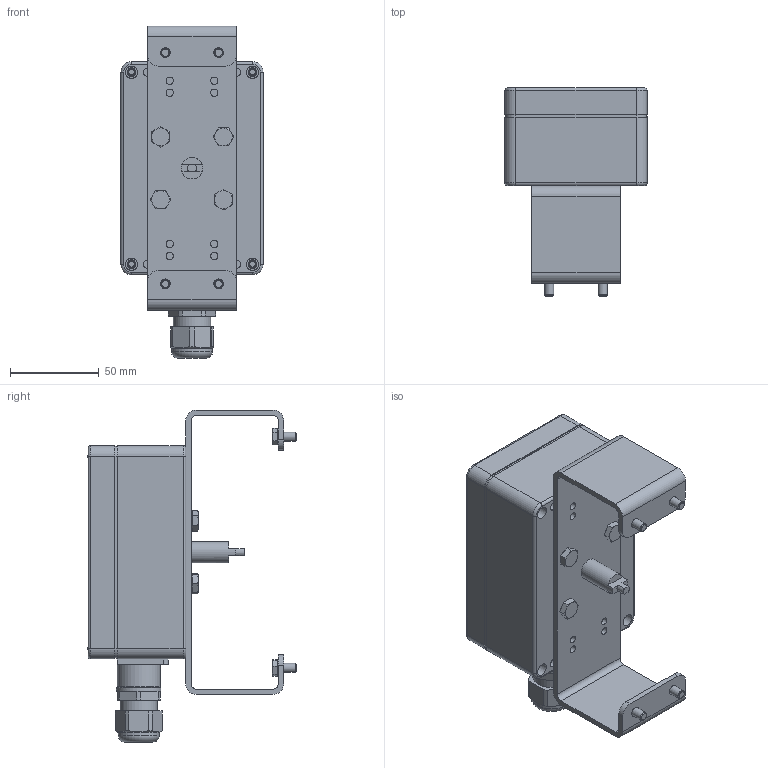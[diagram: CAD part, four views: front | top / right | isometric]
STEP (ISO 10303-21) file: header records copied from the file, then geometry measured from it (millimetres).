
FILE_DESCRIPTION((''),'2;1');
FILE_NAME('C:\Users\war\Desktop\V215_MS45-50.stp','2017-01-11T17:24:40',('war'),(''),'Autodesk Inventor 2013','Autodesk Inventor 2013','');
FILE_SCHEMA(('AUTOMOTIVE_DESIGN { 1 0 10303 214 1 1 1 1 }'));
Length unit declared in the file: millimetre
Products named in the file (1): ENG-053289_Shrinkwrap_1
Bounding box: 80 x 117.07 x 186.7 mm (x, y, z)
Volume: 217355.5 mm3; surface area: 125725.5 mm2
Topology: 1 solids, 14 shells, 961 faces, 2445 edges, 1591 vertices
Faces by surface type: plane 501, cylinder 294, cone 121, torus 41, sphere 4
Full cylindrical faces by diameter (mm): 3.621 x4, 4 x22, 4.134 x8, 4.7 x4, 4.917 x4, 5 x8, 5.5 x4, 6 x4, 6.5 x4, 6.7 x4, 6.88 x4, 7 x4, 7.4 x4, 8 x4, 8.88 x4, 12 x2, 12.05 x1, 13 x2, 18 x1, 18.376 x1, 20 x1, 20.95 x1, 21 x1, 23 x1, 24 x1, 25 x1
Entity records: 29460 total; most frequent: CARTESIAN_POINT 5877, DIRECTION 4841, ORIENTED_EDGE 4480, EDGE_CURVE 2240, AXIS2_PLACEMENT_3D 1849, VERTEX_POINT 1531, EDGE_LOOP 1213, VECTOR 1143
